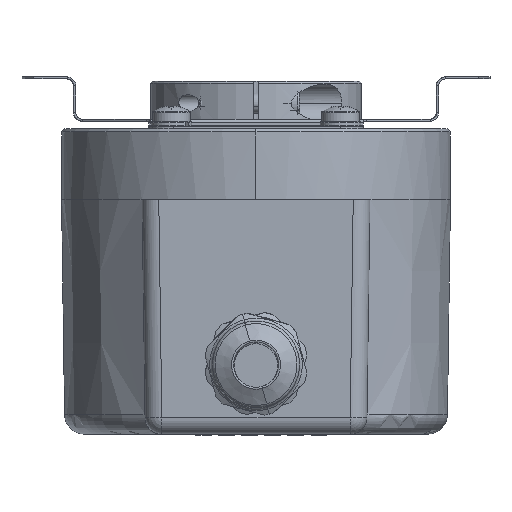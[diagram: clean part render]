
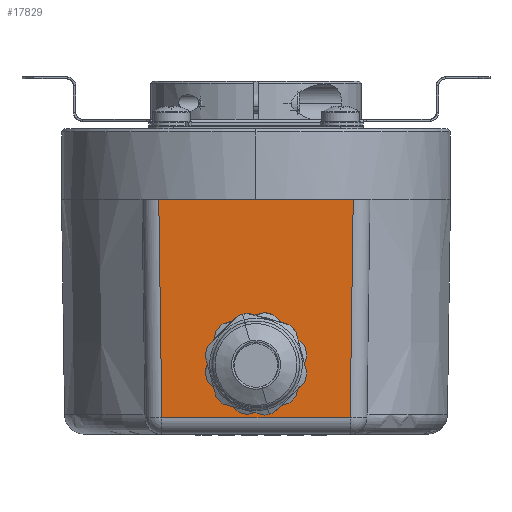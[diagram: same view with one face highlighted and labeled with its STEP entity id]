
A CAD part, front view. The second image highlights one B-rep face of the part: STEP entity #17829.
In plain terms, the highlighted planar face has unit normal (0, -1, -0.014).
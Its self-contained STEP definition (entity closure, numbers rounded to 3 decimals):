
#480 = EDGE_CURVE ( 'NONE', #12280, #11763, #10481, .T. ) ;
#552 = CARTESIAN_POINT ( 'NONE',  ( 17., -28.546, 2.465 ) ) ;
#951 = LINE ( 'NONE', #8013, #3620 ) ;
#1645 = CIRCLE ( 'NONE', #19453, 5.5 ) ;
#1660 = LINE ( 'NONE', #5673, #10434 ) ;
#1892 = ORIENTED_EDGE ( 'NONE', *, *, #480, .F. ) ;
#2023 = EDGE_CURVE ( 'NONE', #21509, #20317, #4370, .T. ) ;
#2116 = CARTESIAN_POINT ( 'NONE',  ( 0., -28.659, 10.6 ) ) ;
#2277 = CARTESIAN_POINT ( 'NONE',  ( 0., -29., 35. ) ) ;
#2622 = CARTESIAN_POINT ( 'NONE',  ( 4.387, -28.613, 7.283 ) ) ;
#2873 = CARTESIAN_POINT ( 'NONE',  ( 4.387, -28.613, 7.283 ) ) ;
#3121 = CARTESIAN_POINT ( 'NONE',  ( 14.5, -29., 35. ) ) ;
#3166 = CARTESIAN_POINT ( 'NONE',  ( -14.046, -28.546, 2.465 ) ) ;
#3620 = VECTOR ( 'NONE', #11359, 1000. ) ;
#4074 = CARTESIAN_POINT ( 'NONE',  ( -4.387, -28.613, 7.283 ) ) ;
#4370 = LINE ( 'NONE', #552, #22600 ) ;
#5194 = DIRECTION ( 'NONE',  ( 0., -1., -0.014 ) ) ;
#5673 = CARTESIAN_POINT ( 'NONE',  ( 14.501, -29., 35.035 ) ) ;
#5772 = CARTESIAN_POINT ( 'NONE',  ( 17., -29., 35. ) ) ;
#6061 = ORIENTED_EDGE ( 'NONE', *, *, #2023, .T. ) ;
#6160 = VERTEX_POINT ( 'NONE', #20835 ) ;
#6714 = FACE_BOUND ( 'NONE', #17657, .T. ) ;
#6826 = DIRECTION ( 'NONE',  ( 0., -0.014, 1. ) ) ;
#6950 = ORIENTED_EDGE ( 'NONE', *, *, #12867, .F. ) ;
#7069 = VERTEX_POINT ( 'NONE', #19814 ) ;
#7332 = ORIENTED_EDGE ( 'NONE', *, *, #15931, .F. ) ;
#7398 = DIRECTION ( 'NONE',  ( 1., 0., 0. ) ) ;
#7598 = EDGE_CURVE ( 'NONE', #6160, #12280, #19550, .T. ) ;
#7673 = VECTOR ( 'NONE', #12865, 1000. ) ;
#8013 = CARTESIAN_POINT ( 'NONE',  ( -14.494, -28.994, 34.56 ) ) ;
#8074 = CARTESIAN_POINT ( 'NONE',  ( -8.051, -28.673, 11.608 ) ) ;
#8345 = CARTESIAN_POINT ( 'NONE',  ( 17., -29., 35. ) ) ;
#9051 = EDGE_CURVE ( 'NONE', #20317, #20082, #1660, .T. ) ;
#9509 = AXIS2_PLACEMENT_3D ( 'NONE', #11147, #16635, #20135 ) ;
#9931 = CARTESIAN_POINT ( 'NONE',  ( 8.051, -28.673, 11.608 ) ) ;
#10033 = ORIENTED_EDGE ( 'NONE', *, *, #22873, .T. ) ;
#10434 = VECTOR ( 'NONE', #16488, 1000. ) ;
#10481 =( BOUNDED_CURVE ( )  B_SPLINE_CURVE ( 3, ( #2622, #9931, #18664, #20290, #18784, #8074, #14929 ),
 .UNSPECIFIED., .F., .F. ) 
 B_SPLINE_CURVE_WITH_KNOTS ( ( 4, 3, 4 ),
 ( 0.868, 3.142, 5.415 ),
 .UNSPECIFIED. ) 
 CURVE ( )  GEOMETRIC_REPRESENTATION_ITEM ( )  RATIONAL_B_SPLINE_CURVE ( ( 1., 0.614, 0.614, 1., 0.614, 0.614, 1. ) ) 
 REPRESENTATION_ITEM ( '' )  );
#10485 = DIRECTION ( 'NONE',  ( 0., -1., -0.014 ) ) ;
#11147 = CARTESIAN_POINT ( 'NONE',  ( 0., -28.659, 10.6 ) ) ;
#11359 = DIRECTION ( 'NONE',  ( 0.014, 0.014, -1. ) ) ;
#11763 = VERTEX_POINT ( 'NONE', #4074 ) ;
#12280 = VERTEX_POINT ( 'NONE', #2873 ) ;
#12385 = FACE_OUTER_BOUND ( 'NONE', #16152, .T. ) ;
#12865 = DIRECTION ( 'NONE',  ( 1., 0., 0. ) ) ;
#12867 = EDGE_CURVE ( 'NONE', #11763, #6160, #1645, .T. ) ;
#13613 = LINE ( 'NONE', #17455, #14003 ) ;
#14003 = VECTOR ( 'NONE', #17217, 1000. ) ;
#14929 = CARTESIAN_POINT ( 'NONE',  ( -4.387, -28.613, 7.283 ) ) ;
#15131 = ORIENTED_EDGE ( 'NONE', *, *, #7598, .F. ) ;
#15931 = EDGE_CURVE ( 'NONE', #7069, #19167, #13613, .T. ) ;
#16140 = EDGE_CURVE ( 'NONE', #19167, #20082, #19641, .T. ) ;
#16152 = EDGE_LOOP ( 'NONE', ( #7332, #10033, #6061, #22716, #22934 ) ) ;
#16488 = DIRECTION ( 'NONE',  ( 0.014, -0.014, 1. ) ) ;
#16635 = DIRECTION ( 'NONE',  ( 0., -1., -0.014 ) ) ;
#16820 = AXIS2_PLACEMENT_3D ( 'NONE', #8345, #5194, #6826 ) ;
#17217 = DIRECTION ( 'NONE',  ( 1., 0., 0. ) ) ;
#17455 = CARTESIAN_POINT ( 'NONE',  ( 17., -29., 35. ) ) ;
#17657 = EDGE_LOOP ( 'NONE', ( #6950, #1892, #15131 ) ) ;
#17829 = ADVANCED_FACE ( 'NONE', ( #6714, #12385 ), #21236, .T. ) ;
#18664 = CARTESIAN_POINT ( 'NONE',  ( 5.668, -28.745, 16.75 ) ) ;
#18784 = CARTESIAN_POINT ( 'NONE',  ( -5.668, -28.745, 16.75 ) ) ;
#19167 = VERTEX_POINT ( 'NONE', #2277 ) ;
#19453 = AXIS2_PLACEMENT_3D ( 'NONE', #2116, #10485, #19788 ) ;
#19550 = CIRCLE ( 'NONE', #9509, 5.5 ) ;
#19641 = LINE ( 'NONE', #5772, #7673 ) ;
#19788 = DIRECTION ( 'NONE',  ( 0., 0.014, -1. ) ) ;
#19814 = CARTESIAN_POINT ( 'NONE',  ( -14.5, -29., 35. ) ) ;
#20082 = VERTEX_POINT ( 'NONE', #3121 ) ;
#20135 = DIRECTION ( 'NONE',  ( 0., 0.014, -1. ) ) ;
#20290 = CARTESIAN_POINT ( 'NONE',  ( 0., -28.745, 16.75 ) ) ;
#20317 = VERTEX_POINT ( 'NONE', #21688 ) ;
#20835 = CARTESIAN_POINT ( 'NONE',  ( 1.424, -28.585, 5.288 ) ) ;
#21236 = PLANE ( 'NONE',  #16820 ) ;
#21509 = VERTEX_POINT ( 'NONE', #3166 ) ;
#21688 = CARTESIAN_POINT ( 'NONE',  ( 14.046, -28.546, 2.465 ) ) ;
#22600 = VECTOR ( 'NONE', #7398, 1000. ) ;
#22716 = ORIENTED_EDGE ( 'NONE', *, *, #9051, .T. ) ;
#22873 = EDGE_CURVE ( 'NONE', #7069, #21509, #951, .T. ) ;
#22934 = ORIENTED_EDGE ( 'NONE', *, *, #16140, .F. ) ;
